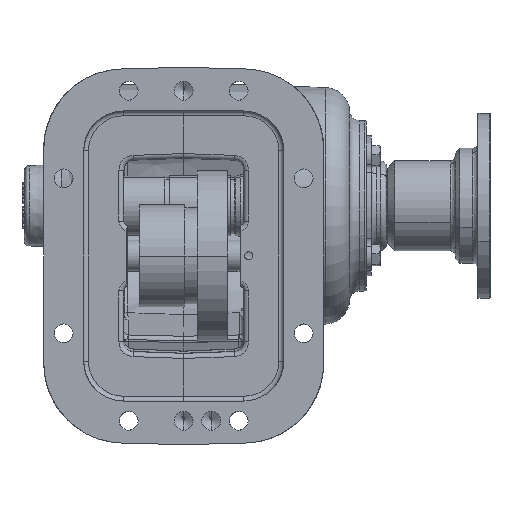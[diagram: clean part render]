
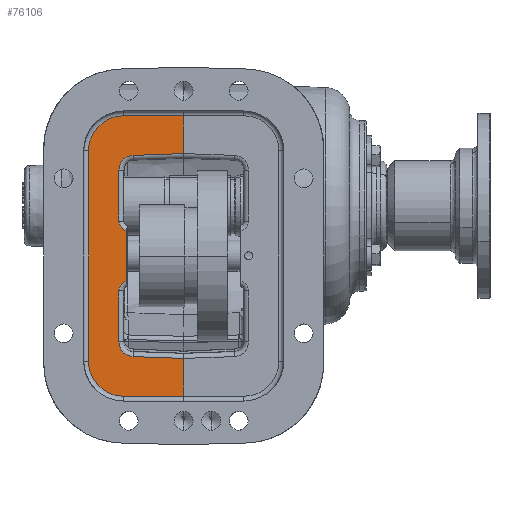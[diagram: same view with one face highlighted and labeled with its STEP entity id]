
A CAD part, front view. The second image highlights one B-rep face of the part: STEP entity #76106.
In plain terms, the highlighted planar face has unit normal (0, -1, 0).
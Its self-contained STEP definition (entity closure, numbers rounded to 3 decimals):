
#2973 = LINE ( 'NONE', #58459, #2982 ) ;
#2979 = LINE ( 'NONE', #58465, #2984 ) ;
#2982 = VECTOR ( 'NONE', #58472, 1000. ) ;
#2984 = VECTOR ( 'NONE', #58474, 1000. ) ;
#40967 = EDGE_CURVE ( 'NONE', #95880, #95934, #2973, .T. ) ;
#40968 = EDGE_CURVE ( 'NONE', #95947, #95908, #2979, .T. ) ;
#43207 = AXIS2_PLACEMENT_3D ( 'NONE', #60977, #60978, #60979 ) ;
#43215 = AXIS2_PLACEMENT_3D ( 'NONE', #61008, #61009, #61010 ) ;
#43228 = AXIS2_PLACEMENT_3D ( 'NONE', #61051, #61052, #61053 ) ;
#43236 = AXIS2_PLACEMENT_3D ( 'NONE', #61081, #61082, #61083 ) ;
#43273 = AXIS2_PLACEMENT_3D ( 'NONE', #61540, #61541, #61542 ) ;
#43282 = AXIS2_PLACEMENT_3D ( 'NONE', #61568, #61569, #61570 ) ;
#45786 = CARTESIAN_POINT ( 'NONE',  ( -88.773, -151.106, 55.209 ) ) ;
#45800 = PLANE ( 'NONE',  #49422 ) ;
#45804 = DIRECTION ( 'NONE',  ( 0., 1., 0. ) ) ;
#45806 = DIRECTION ( 'NONE',  ( 0., 0., 1. ) ) ;
#49422 = AXIS2_PLACEMENT_3D ( 'NONE', #45786, #45804, #45806 ) ;
#58459 = CARTESIAN_POINT ( 'NONE',  ( 0.127, -151.106, 55.209 ) ) ;
#58465 = CARTESIAN_POINT ( 'NONE',  ( 0.127, -151.106, 55.209 ) ) ;
#58472 = DIRECTION ( 'NONE',  ( 0., 0., -1. ) ) ;
#58474 = DIRECTION ( 'NONE',  ( 0., 0., -1. ) ) ;
#59648 = FACE_OUTER_BOUND ( 'NONE', #89192, .T. ) ;
#60976 = DIRECTION ( 'NONE',  ( 0., 0., 1. ) ) ;
#60977 = CARTESIAN_POINT ( 'NONE',  ( -31.623, -151.106, -116.779 ) ) ;
#60978 = DIRECTION ( 'NONE',  ( 0., 1., 0. ) ) ;
#60979 = DIRECTION ( 'NONE',  ( 0., 0., 1. ) ) ;
#60989 = CARTESIAN_POINT ( 'NONE',  ( -41.021, -151.106, -84.428 ) ) ;
#61008 = CARTESIAN_POINT ( 'NONE',  ( -34.925, -151.106, -84.428 ) ) ;
#61009 = DIRECTION ( 'NONE',  ( 0., 1., 0. ) ) ;
#61010 = DIRECTION ( 'NONE',  ( 0., 0., 1. ) ) ;
#61021 = DIRECTION ( 'NONE',  ( 0., 0., 1. ) ) ;
#61025 = CARTESIAN_POINT ( 'NONE',  ( -36.195, -151.106, -46.066 ) ) ;
#61051 = CARTESIAN_POINT ( 'NONE',  ( -34.925, -151.106, -40.104 ) ) ;
#61052 = DIRECTION ( 'NONE',  ( 0., 1., 0. ) ) ;
#61053 = DIRECTION ( 'NONE',  ( 0., 0., 1. ) ) ;
#61060 = CARTESIAN_POINT ( 'NONE',  ( -41.021, -151.106, -7.753 ) ) ;
#61061 = DIRECTION ( 'NONE',  ( 0., 0., 1. ) ) ;
#61081 = CARTESIAN_POINT ( 'NONE',  ( -31.623, -151.106, -7.753 ) ) ;
#61082 = DIRECTION ( 'NONE',  ( 0., 1., 0. ) ) ;
#61083 = DIRECTION ( 'NONE',  ( 0., 0., 1. ) ) ;
#61097 = CARTESIAN_POINT ( 'NONE',  ( 0.021, -151.106, 2.756 ) ) ;
#61098 = DIRECTION ( 'NONE',  ( 0.999, 0., 0.035 ) ) ;
#61539 = DIRECTION ( 'NONE',  ( 1., 0., 0. ) ) ;
#61540 = CARTESIAN_POINT ( 'NONE',  ( -37.973, -151.106, -128.941 ) ) ;
#61541 = DIRECTION ( 'NONE',  ( 0., -1., 0. ) ) ;
#61542 = DIRECTION ( 'NONE',  ( 0., 0., 1. ) ) ;
#61543 = CARTESIAN_POINT ( 'NONE',  ( 0.127, -151.106, -151.293 ) ) ;
#61554 = CARTESIAN_POINT ( 'NONE',  ( -60.325, -151.106, -128.941 ) ) ;
#61555 = DIRECTION ( 'NONE',  ( 0., 0., -1. ) ) ;
#61568 = CARTESIAN_POINT ( 'NONE',  ( -37.973, -151.106, 4.409 ) ) ;
#61569 = DIRECTION ( 'NONE',  ( 0., -1., 0. ) ) ;
#61570 = DIRECTION ( 'NONE',  ( 0., 0., 1. ) ) ;
#61599 = CARTESIAN_POINT ( 'NONE',  ( -37.973, -151.106, 26.761 ) ) ;
#61602 = DIRECTION ( 'NONE',  ( -1., 0., 0. ) ) ;
#74943 = DIRECTION ( 'NONE',  ( -0.999, 0., 0.035 ) ) ;
#74949 = CARTESIAN_POINT ( 'NONE',  ( -31.951, -151.106, -126.172 ) ) ;
#75258 = LINE ( 'NONE', #74949, #75262 ) ;
#75262 = VECTOR ( 'NONE', #74943, 1000. ) ;
#75266 = CIRCLE ( 'NONE', #43207, 9.398 ) ;
#75271 = LINE ( 'NONE', #60989, #75278 ) ;
#75278 = VECTOR ( 'NONE', #60976, 1000. ) ;
#75283 = CIRCLE ( 'NONE', #43215, 6.096 ) ;
#75291 = LINE ( 'NONE', #61025, #75294 ) ;
#75294 = VECTOR ( 'NONE', #61021, 1000. ) ;
#75298 = CIRCLE ( 'NONE', #43228, 6.096 ) ;
#75303 = LINE ( 'NONE', #61060, #75310 ) ;
#75310 = VECTOR ( 'NONE', #61061, 1000. ) ;
#75314 = CIRCLE ( 'NONE', #43236, 9.398 ) ;
#75323 = LINE ( 'NONE', #61097, #75326 ) ;
#75326 = VECTOR ( 'NONE', #61098, 1000. ) ;
#75367 = LINE ( 'NONE', #61543, #75373 ) ;
#75369 = CIRCLE ( 'NONE', #43273, 22.352 ) ;
#75373 = VECTOR ( 'NONE', #61539, 1000. ) ;
#75377 = LINE ( 'NONE', #61554, #75380 ) ;
#75380 = VECTOR ( 'NONE', #61555, 1000. ) ;
#75387 = CIRCLE ( 'NONE', #43282, 22.352 ) ;
#75393 = LINE ( 'NONE', #61599, #75396 ) ;
#75396 = VECTOR ( 'NONE', #61602, 1000. ) ;
#76106 = ADVANCED_FACE ( 'NONE', ( #59648 ), #45800, .F. ) ;
#80301 = EDGE_CURVE ( 'NONE', #95880, #95877, #75258, .T. ) ;
#80307 = EDGE_CURVE ( 'NONE', #95877, #95881, #75266, .T. ) ;
#80313 = EDGE_CURVE ( 'NONE', #95881, #95882, #75271, .T. ) ;
#80319 = EDGE_CURVE ( 'NONE', #95882, #95891, #75283, .T. ) ;
#80326 = EDGE_CURVE ( 'NONE', #95891, #95894, #75291, .T. ) ;
#80335 = EDGE_CURVE ( 'NONE', #95894, #95899, #75298, .T. ) ;
#80341 = EDGE_CURVE ( 'NONE', #95899, #95896, #75303, .T. ) ;
#80347 = EDGE_CURVE ( 'NONE', #95896, #95900, #75314, .T. ) ;
#80354 = EDGE_CURVE ( 'NONE', #95900, #95908, #75323, .T. ) ;
#80422 = EDGE_CURVE ( 'NONE', #95933, #95936, #75369, .T. ) ;
#80424 = EDGE_CURVE ( 'NONE', #95936, #95934, #75367, .T. ) ;
#80428 = EDGE_CURVE ( 'NONE', #95939, #95933, #75377, .T. ) ;
#80434 = EDGE_CURVE ( 'NONE', #95943, #95939, #75387, .T. ) ;
#80440 = EDGE_CURVE ( 'NONE', #95947, #95943, #75393, .T. ) ;
#89192 = EDGE_LOOP ( 'NONE', ( #91540, #91542, #91544, #91546, #91548, #91550, #91552, #91554, #91556, #91558, #91560, #91562, #91564, #91566, #91568, #91570 ) ) ;
#91540 = ORIENTED_EDGE ( 'NONE', *, *, #40967, .F. ) ;
#91542 = ORIENTED_EDGE ( 'NONE', *, *, #80301, .T. ) ;
#91544 = ORIENTED_EDGE ( 'NONE', *, *, #80307, .T. ) ;
#91546 = ORIENTED_EDGE ( 'NONE', *, *, #80313, .T. ) ;
#91548 = ORIENTED_EDGE ( 'NONE', *, *, #80319, .T. ) ;
#91550 = ORIENTED_EDGE ( 'NONE', *, *, #80326, .T. ) ;
#91552 = ORIENTED_EDGE ( 'NONE', *, *, #80335, .T. ) ;
#91554 = ORIENTED_EDGE ( 'NONE', *, *, #80341, .T. ) ;
#91556 = ORIENTED_EDGE ( 'NONE', *, *, #80347, .T. ) ;
#91558 = ORIENTED_EDGE ( 'NONE', *, *, #80354, .T. ) ;
#91560 = ORIENTED_EDGE ( 'NONE', *, *, #40968, .F. ) ;
#91562 = ORIENTED_EDGE ( 'NONE', *, *, #80440, .T. ) ;
#91564 = ORIENTED_EDGE ( 'NONE', *, *, #80434, .T. ) ;
#91566 = ORIENTED_EDGE ( 'NONE', *, *, #80428, .T. ) ;
#91568 = ORIENTED_EDGE ( 'NONE', *, *, #80422, .T. ) ;
#91570 = ORIENTED_EDGE ( 'NONE', *, *, #80424, .T. ) ;
#95877 = VERTEX_POINT ( 'NONE', #112620 ) ;
#95880 = VERTEX_POINT ( 'NONE', #112623 ) ;
#95881 = VERTEX_POINT ( 'NONE', #112624 ) ;
#95882 = VERTEX_POINT ( 'NONE', #112625 ) ;
#95891 = VERTEX_POINT ( 'NONE', #112634 ) ;
#95894 = VERTEX_POINT ( 'NONE', #112637 ) ;
#95896 = VERTEX_POINT ( 'NONE', #112639 ) ;
#95899 = VERTEX_POINT ( 'NONE', #112642 ) ;
#95900 = VERTEX_POINT ( 'NONE', #112643 ) ;
#95908 = VERTEX_POINT ( 'NONE', #112651 ) ;
#95933 = VERTEX_POINT ( 'NONE', #112676 ) ;
#95934 = VERTEX_POINT ( 'NONE', #112677 ) ;
#95936 = VERTEX_POINT ( 'NONE', #112679 ) ;
#95939 = VERTEX_POINT ( 'NONE', #112682 ) ;
#95943 = VERTEX_POINT ( 'NONE', #112686 ) ;
#95947 = VERTEX_POINT ( 'NONE', #112690 ) ;
#112620 = CARTESIAN_POINT ( 'NONE',  ( -31.951, -151.106, -126.172 ) ) ;
#112623 = CARTESIAN_POINT ( 'NONE',  ( 0.127, -151.106, -127.292 ) ) ;
#112624 = CARTESIAN_POINT ( 'NONE',  ( -41.021, -151.106, -116.779 ) ) ;
#112625 = CARTESIAN_POINT ( 'NONE',  ( -41.021, -151.106, -84.428 ) ) ;
#112634 = CARTESIAN_POINT ( 'NONE',  ( -36.195, -151.106, -78.466 ) ) ;
#112637 = CARTESIAN_POINT ( 'NONE',  ( -36.195, -151.106, -46.066 ) ) ;
#112639 = CARTESIAN_POINT ( 'NONE',  ( -41.021, -151.106, -7.753 ) ) ;
#112642 = CARTESIAN_POINT ( 'NONE',  ( -41.021, -151.106, -40.104 ) ) ;
#112643 = CARTESIAN_POINT ( 'NONE',  ( -31.951, -151.106, 1.64 ) ) ;
#112651 = CARTESIAN_POINT ( 'NONE',  ( 0.127, -151.106, 2.76 ) ) ;
#112676 = CARTESIAN_POINT ( 'NONE',  ( -60.325, -151.106, -128.941 ) ) ;
#112677 = CARTESIAN_POINT ( 'NONE',  ( 0.127, -151.106, -151.293 ) ) ;
#112679 = CARTESIAN_POINT ( 'NONE',  ( -37.973, -151.106, -151.293 ) ) ;
#112682 = CARTESIAN_POINT ( 'NONE',  ( -60.325, -151.106, 4.409 ) ) ;
#112686 = CARTESIAN_POINT ( 'NONE',  ( -37.973, -151.106, 26.761 ) ) ;
#112690 = CARTESIAN_POINT ( 'NONE',  ( 0.127, -151.106, 26.761 ) ) ;
